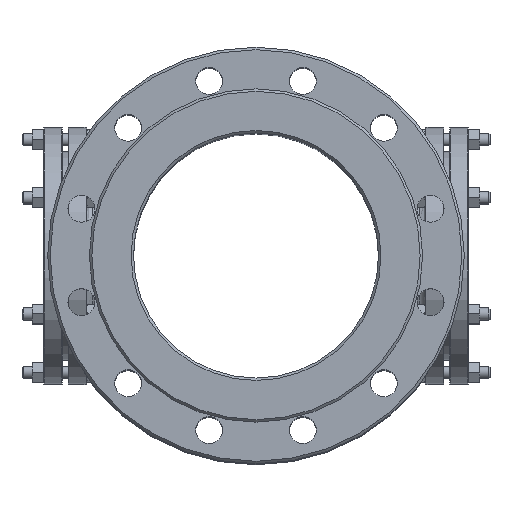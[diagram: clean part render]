
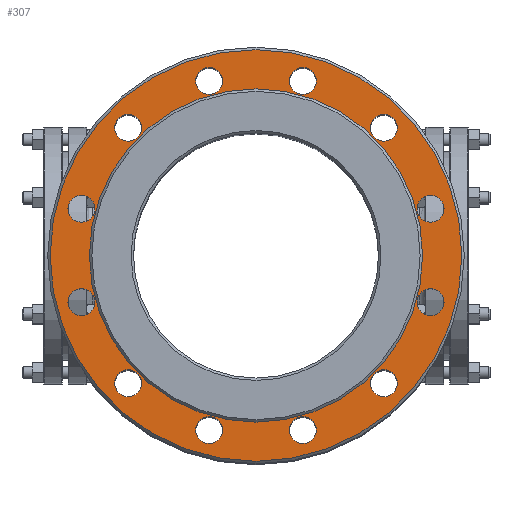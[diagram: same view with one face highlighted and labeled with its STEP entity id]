
A CAD part, top view. The second image highlights one B-rep face of the part: STEP entity #307.
In plain terms, the highlighted planar face has unit normal (0, 0, 1).
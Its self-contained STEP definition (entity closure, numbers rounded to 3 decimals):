
#307=ADVANCED_FACE('',(#3112,#3114,#3116,#3118,#3120,#3122,#3124,#3126,#3128,#3130,
#3132,#3134,#3136,#3138),#3140,.T.);
#3112=FACE_BOUND('',#3113,.T.);
#3113=EDGE_LOOP('',(#9975));
#3114=FACE_BOUND('',#3115,.T.);
#3115=EDGE_LOOP('',(#9976));
#3116=FACE_BOUND('',#3117,.T.);
#3117=EDGE_LOOP('',(#9977));
#3118=FACE_BOUND('',#3119,.T.);
#3119=EDGE_LOOP('',(#9978));
#3120=FACE_BOUND('',#3121,.T.);
#3121=EDGE_LOOP('',(#9979));
#3122=FACE_BOUND('',#3123,.T.);
#3123=EDGE_LOOP('',(#9980));
#3124=FACE_BOUND('',#3125,.T.);
#3125=EDGE_LOOP('',(#9981));
#3126=FACE_BOUND('',#3127,.T.);
#3127=EDGE_LOOP('',(#9982));
#3128=FACE_BOUND('',#3129,.T.);
#3129=EDGE_LOOP('',(#9983));
#3130=FACE_BOUND('',#3131,.T.);
#3131=EDGE_LOOP('',(#9984));
#3132=FACE_BOUND('',#3133,.T.);
#3133=EDGE_LOOP('',(#9985));
#3134=FACE_BOUND('',#3135,.T.);
#3135=EDGE_LOOP('',(#9986));
#3136=FACE_BOUND('',#3137,.T.);
#3137=EDGE_LOOP('',(#9987));
#3138=FACE_BOUND('',#3139,.T.);
#3139=EDGE_LOOP('',(#9988));
#3140=PLANE('',#3141);
#3141=AXIS2_PLACEMENT_3D('',#3142,#3143,#3144);
#3142=CARTESIAN_POINT('',(0.,0.,238.));
#3143=DIRECTION('',(0.,0.,1.));
#3144=DIRECTION('',(1.,0.,0.));
#9975=ORIENTED_EDGE('',*,*,#12894,.T.);
#9976=ORIENTED_EDGE('',*,*,#12895,.F.);
#9977=ORIENTED_EDGE('',*,*,#12896,.T.);
#9978=ORIENTED_EDGE('',*,*,#12897,.T.);
#9979=ORIENTED_EDGE('',*,*,#12898,.T.);
#9980=ORIENTED_EDGE('',*,*,#12899,.T.);
#9981=ORIENTED_EDGE('',*,*,#12900,.T.);
#9982=ORIENTED_EDGE('',*,*,#12819,.F.);
#9983=ORIENTED_EDGE('',*,*,#12901,.T.);
#9984=ORIENTED_EDGE('',*,*,#12902,.F.);
#9985=ORIENTED_EDGE('',*,*,#12903,.F.);
#9986=ORIENTED_EDGE('',*,*,#12904,.F.);
#9987=ORIENTED_EDGE('',*,*,#12905,.F.);
#9988=ORIENTED_EDGE('',*,*,#12906,.T.);
#12819=EDGE_CURVE('',#14367,#14367,#14368,.T.);
#12894=EDGE_CURVE('',#14481,#14481,#14482,.T.);
#12895=EDGE_CURVE('',#14483,#14483,#14484,.T.);
#12896=EDGE_CURVE('',#14485,#14485,#14486,.T.);
#12897=EDGE_CURVE('',#14487,#14487,#14488,.T.);
#12898=EDGE_CURVE('',#14489,#14489,#14490,.T.);
#12899=EDGE_CURVE('',#14491,#14491,#14492,.T.);
#12900=EDGE_CURVE('',#14493,#14493,#14494,.T.);
#12901=EDGE_CURVE('',#14495,#14495,#14496,.T.);
#12902=EDGE_CURVE('',#14497,#14497,#14498,.T.);
#12903=EDGE_CURVE('',#14499,#14499,#14500,.T.);
#12904=EDGE_CURVE('',#14501,#14501,#14502,.T.);
#12905=EDGE_CURVE('',#14503,#14503,#14504,.T.);
#12906=EDGE_CURVE('',#14505,#14505,#14506,.T.);
#14367=VERTEX_POINT('',#18385);
#14368=CIRCLE('',#18386,136.);
#14481=VERTEX_POINT('',#20092);
#14482=CIRCLE('',#20093,168.);
#14483=VERTEX_POINT('',#20097);
#14484=CIRCLE('',#20098,11.);
#14485=VERTEX_POINT('',#20102);
#14486=CIRCLE('',#20103,11.);
#14487=VERTEX_POINT('',#20107);
#14488=CIRCLE('',#20108,11.);
#14489=VERTEX_POINT('',#20112);
#14490=CIRCLE('',#20113,11.);
#14491=VERTEX_POINT('',#20117);
#14492=CIRCLE('',#20118,11.);
#14493=VERTEX_POINT('',#20122);
#14494=CIRCLE('',#20123,11.);
#14495=VERTEX_POINT('',#20127);
#14496=CIRCLE('',#20128,11.);
#14497=VERTEX_POINT('',#20132);
#14498=CIRCLE('',#20133,11.);
#14499=VERTEX_POINT('',#20137);
#14500=CIRCLE('',#20138,11.);
#14501=VERTEX_POINT('',#20142);
#14502=CIRCLE('',#20143,11.);
#14503=VERTEX_POINT('',#20147);
#14504=CIRCLE('',#20148,11.);
#14505=VERTEX_POINT('',#20152);
#14506=CIRCLE('',#20153,11.);
#18385=CARTESIAN_POINT('',(136.,0.,238.));
#18386=AXIS2_PLACEMENT_3D('',#18387,#18388,#18389);
#18387=CARTESIAN_POINT('',(0.,0.,238.));
#18388=DIRECTION('',(0.,0.,1.));
#18389=DIRECTION('',(1.,0.,0.));
#20092=CARTESIAN_POINT('',(168.,0.,238.));
#20093=AXIS2_PLACEMENT_3D('',#20094,#20095,#20096);
#20094=CARTESIAN_POINT('',(0.,0.,238.));
#20095=DIRECTION('',(0.,0.,1.));
#20096=DIRECTION('',(1.,0.,0.));
#20097=CARTESIAN_POINT('',(-131.474,38.176,238.));
#20098=AXIS2_PLACEMENT_3D('',#20099,#20100,#20101);
#20099=CARTESIAN_POINT('',(-142.474,38.176,238.));
#20100=DIRECTION('',(0.,0.,1.));
#20101=DIRECTION('',(1.,0.,0.));
#20102=CARTESIAN_POINT('',(115.298,104.298,238.));
#20103=AXIS2_PLACEMENT_3D('',#20104,#20105,#20106);
#20104=CARTESIAN_POINT('',(104.298,104.298,238.));
#20105=DIRECTION('',(0.,0.,-1.));
#20106=DIRECTION('',(1.,0.,0.));
#20107=CARTESIAN_POINT('',(49.176,142.474,238.));
#20108=AXIS2_PLACEMENT_3D('',#20109,#20110,#20111);
#20109=CARTESIAN_POINT('',(38.176,142.474,238.));
#20110=DIRECTION('',(0.,0.,-1.));
#20111=DIRECTION('',(1.,0.,0.));
#20112=CARTESIAN_POINT('',(49.176,-142.474,238.));
#20113=AXIS2_PLACEMENT_3D('',#20114,#20115,#20116);
#20114=CARTESIAN_POINT('',(38.176,-142.474,238.));
#20115=DIRECTION('',(0.,0.,-1.));
#20116=DIRECTION('',(1.,0.,0.));
#20117=CARTESIAN_POINT('',(115.298,-104.298,238.));
#20118=AXIS2_PLACEMENT_3D('',#20119,#20120,#20121);
#20119=CARTESIAN_POINT('',(104.298,-104.298,238.));
#20120=DIRECTION('',(0.,0.,-1.));
#20121=DIRECTION('',(1.,0.,0.));
#20122=CARTESIAN_POINT('',(153.474,-38.176,238.));
#20123=AXIS2_PLACEMENT_3D('',#20124,#20125,#20126);
#20124=CARTESIAN_POINT('',(142.474,-38.176,238.));
#20125=DIRECTION('',(0.,0.,-1.));
#20126=DIRECTION('',(1.,0.,0.));
#20127=CARTESIAN_POINT('',(153.474,38.176,238.));
#20128=AXIS2_PLACEMENT_3D('',#20129,#20130,#20131);
#20129=CARTESIAN_POINT('',(142.474,38.176,238.));
#20130=DIRECTION('',(0.,0.,-1.));
#20131=DIRECTION('',(1.,0.,0.));
#20132=CARTESIAN_POINT('',(-115.298,104.298,238.));
#20133=AXIS2_PLACEMENT_3D('',#20134,#20135,#20136);
#20134=CARTESIAN_POINT('',(-104.298,104.298,238.));
#20135=DIRECTION('',(0.,0.,1.));
#20136=DIRECTION('',(-1.,0.,0.));
#20137=CARTESIAN_POINT('',(-49.176,142.474,238.));
#20138=AXIS2_PLACEMENT_3D('',#20139,#20140,#20141);
#20139=CARTESIAN_POINT('',(-38.176,142.474,238.));
#20140=DIRECTION('',(0.,0.,1.));
#20141=DIRECTION('',(-1.,0.,0.));
#20142=CARTESIAN_POINT('',(-49.176,-142.474,238.));
#20143=AXIS2_PLACEMENT_3D('',#20144,#20145,#20146);
#20144=CARTESIAN_POINT('',(-38.176,-142.474,238.));
#20145=DIRECTION('',(0.,0.,1.));
#20146=DIRECTION('',(-1.,0.,0.));
#20147=CARTESIAN_POINT('',(-115.298,-104.298,238.));
#20148=AXIS2_PLACEMENT_3D('',#20149,#20150,#20151);
#20149=CARTESIAN_POINT('',(-104.298,-104.298,238.));
#20150=DIRECTION('',(0.,0.,1.));
#20151=DIRECTION('',(-1.,0.,0.));
#20152=CARTESIAN_POINT('',(-131.474,-38.176,238.));
#20153=AXIS2_PLACEMENT_3D('',#20154,#20155,#20156);
#20154=CARTESIAN_POINT('',(-142.474,-38.176,238.));
#20155=DIRECTION('',(0.,0.,-1.));
#20156=DIRECTION('',(1.,0.,0.));
